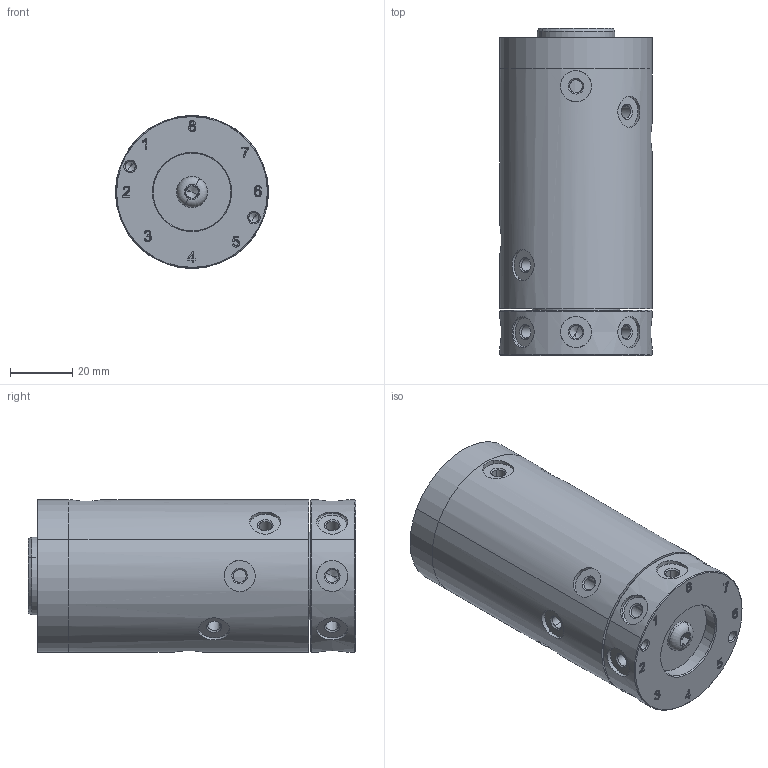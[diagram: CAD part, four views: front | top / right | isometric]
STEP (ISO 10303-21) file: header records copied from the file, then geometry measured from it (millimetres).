
FILE_DESCRIPTION(('CATIA V5 STEP Exchange'),'2;1');
FILE_NAME('\\kjf-102\KJF_TC\Hydraulic_Clamp\Standard\ROTARY\AIR\RTCH-0808A\배포도면\RTCH-0808A_-.stp','2025-07-11T04:32:18+00:00',('none'),('none'),'CATIA Version 5 Release 19 SP 9 (IN-10)','CATIA V5 STEP AP214','none');
FILE_SCHEMA(('AUTOMOTIVE_DESIGN { 1 0 10303 214 1 1 1 1 }'));
Products named in the file (9): RTCH-0808A_-; RTCH-0808A_-_HOUSING; RTCH-0808A_-_SPOOL; RTCH-0808A_-_SLEEVE; RTCH-0808A_-_ADAPTER PLATE; 6805DD; SNAP RING 25; DOWEL PIN 2.0x10; SCREW M5x15
Assembly tree (9 placements, depth 2):
  RTCH-0808A_-
    RTCH-0808A_-_HOUSING
    RTCH-0808A_-_SPOOL
    RTCH-0808A_-_SLEEVE
    RTCH-0808A_-_ADAPTER PLATE
    6805DD  x2
    SNAP RING 25
    DOWEL PIN 2.0x10
    SCREW M5x15
Bounding box: 49 x 105 x 49 mm (x, y, z)
Volume: 180653.3 mm3; surface area: 66509.9 mm2
Topology: 71 solids, 71 shells, 1844 faces, 5187 edges, 3267 vertices
Faces by surface type: plane 1418, cylinder 160, sphere 120, cone 118, torus 28
Entity records: 54992 total; most frequent: CARTESIAN_POINT 10210, ORIENTED_EDGE 9594, DIRECTION 7977, EDGE_CURVE 4797, VECTOR 4325, LINE 4325, VERTEX_POINT 3175, AXIS2_PLACEMENT_3D 2038
